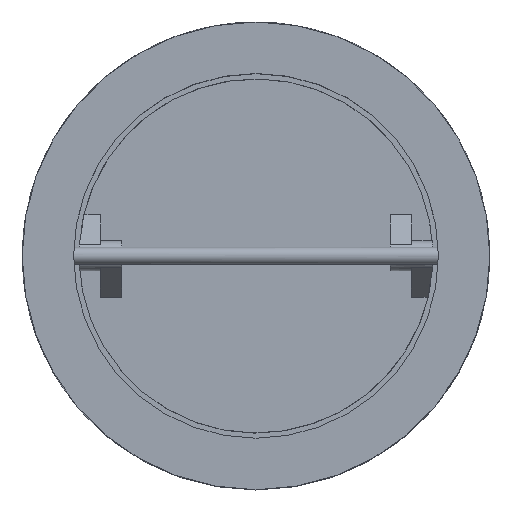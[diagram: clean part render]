
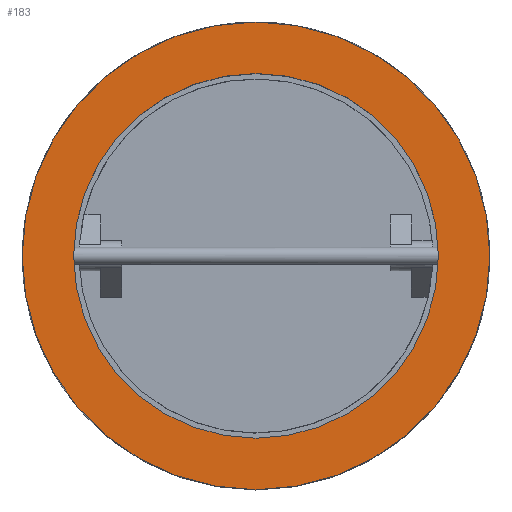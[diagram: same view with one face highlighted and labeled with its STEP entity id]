
A CAD part, top view. The second image highlights one B-rep face of the part: STEP entity #183.
In plain terms, the highlighted planar face has unit normal (0, 0, 1).
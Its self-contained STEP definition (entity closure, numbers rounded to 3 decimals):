
#183=ADVANCED_FACE('',(#822,#824),#826,.T.);
#822=FACE_BOUND('',#823,.T.);
#823=EDGE_LOOP('',(#1339));
#824=FACE_BOUND('',#825,.T.);
#825=EDGE_LOOP('',(#1340));
#826=PLANE('',#827);
#827=AXIS2_PLACEMENT_3D('',#828,#829,#830);
#828=CARTESIAN_POINT('',(0.,0.,76.));
#829=DIRECTION('',(0.,0.,1.));
#830=DIRECTION('',(0.,-1.,0.));
#1339=ORIENTED_EDGE('',*,*,#1681,.T.);
#1340=ORIENTED_EDGE('',*,*,#1691,.F.);
#1681=EDGE_CURVE('',#1899,#1899,#1900,.T.);
#1691=EDGE_CURVE('',#1919,#1919,#1920,.T.);
#1899=VERTEX_POINT('',#2306);
#1900=CIRCLE('',#2307,109.);
#1919=VERTEX_POINT('',#2352);
#1920=CIRCLE('',#2353,85.);
#2306=CARTESIAN_POINT('',(0.,-109.,76.));
#2307=AXIS2_PLACEMENT_3D('',#2308,#2309,#2310);
#2308=CARTESIAN_POINT('',(0.,0.,76.));
#2309=DIRECTION('',(0.,0.,1.));
#2310=DIRECTION('',(0.,-1.,0.));
#2352=CARTESIAN_POINT('',(0.,-85.,76.));
#2353=AXIS2_PLACEMENT_3D('',#2354,#2355,#2356);
#2354=CARTESIAN_POINT('',(0.,0.,76.));
#2355=DIRECTION('',(0.,0.,1.));
#2356=DIRECTION('',(0.,-1.,0.));
